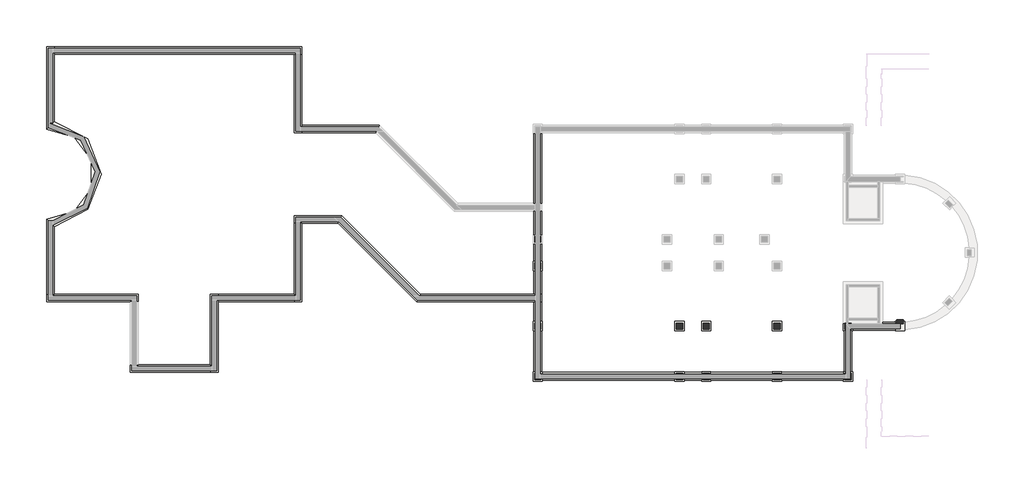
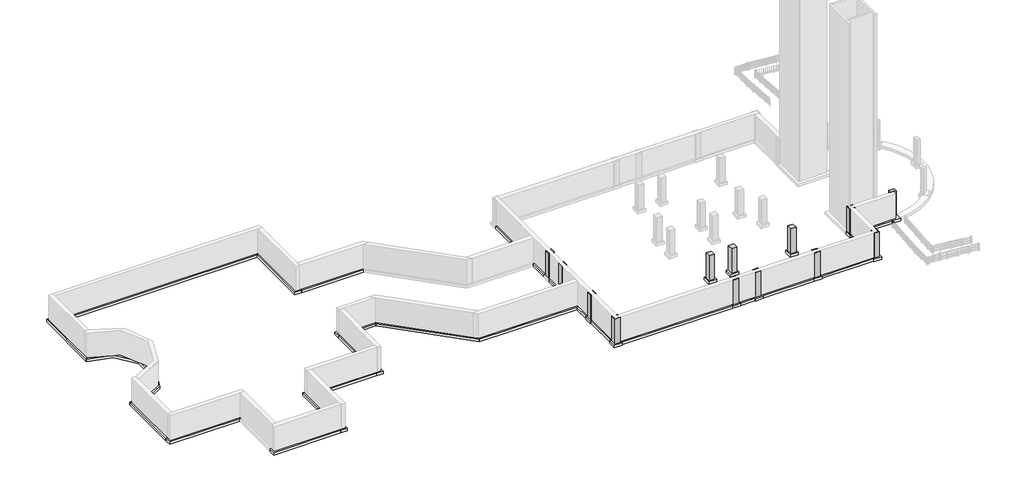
# One storey, part 2 of 3: 18 footings, 13 columns, 12 slabs.
"""IFC4 building model written with IfcOpenShell, lengths in millimetres."""

from ifc_helpers import new_model, si_unit, point, frame, frame_2d, origin, place, context, project, spatial, polyline, circle_curve, trimmed, segment, composite_curve, outline, extrude, faceted_brep, transform, mapped, element, save
from components import concrete_square_column_24_x_24_7ceb939f, slab_e1b4b68c

model = new_model("IFC4")

# Units and contexts
model_context = context("Model", 3, world=origin())
ifc_project = project(units=[si_unit("LENGTHUNIT", "METRE", prefix="MILLI")], contexts=[model_context])

# Site, building, storey
site = spatial("IfcSite", under=ifc_project)
building = spatial("IfcBuilding", under=site)
storey = spatial("IfcBuildingStorey", under=building, Name="T.O. Footing", Elevation=-3048.0)

# Columns
placement = place(None, origin())
element("IfcColumn", 1, ObjectType="Concrete-Square-Column : 24 x 24", at=placement, inside=storey, context=model_context, shape_type="SweptSolid", body=[
    extrude(outline(composite_curve([segment(polyline([(14794.462245, -1076.4762891), (15404.062245, -1076.4762891), (15404.062245, -1474.5635317)]), True, "CONTINUOUS"), segment(trimmed(circle_curve(frame_2d((15099.262245, 5429.0987109)), 6910.3875), [point((15404.062245, -1474.5635317))], [point((15099.262245, -1481.2887891))], False, "CARTESIAN"), True, "CONTINUOUS"), segment(polyline([(15099.262245, -1481.2887891), (14794.462245, -1481.2887891), (14794.462245, -1076.4762891)]), True, "CONTINUOUS")], self_intersect=False)), frame((0.0, 0.0, -3048.0), z_axis=(0.0, 0.0, 1.0), x_axis=(1.0, 0.0, 0.0)), (0.0, 0.0, 1.0), 3048.0),
])
element("IfcColumn", 2, ObjectType="Concrete-Square-Column : 24 x 24", at=placement, inside=storey, context=model_context, shape_type="SweptSolid", body=[
    extrude(outline(polyline([(10351.049745, -1938.4887891), (10351.049745, -2014.6887891), (10274.849745, -2014.6887891), (10274.849745, -1938.4887891), (10351.049745, -1938.4887891)])), frame((0.0, 0.0, -3048.0), z_axis=(0.0, 0.0, 1.0), x_axis=(1.0, 0.0, 0.0)), (0.0, 0.0, 1.0), 3048.0),
    extrude(outline(polyline([(9741.449745, -1405.0887891), (10351.049745, -1405.0887891), (10351.049745, -1481.2887891), (9817.649745, -1481.2887891), (9817.649745, -2014.6887891), (9741.449745, -2014.6887891), (9741.449745, -1405.0887891)])), frame((0.0, 0.0, -3048.0), z_axis=(0.0, 0.0, 1.0), x_axis=(1.0, 0.0, 0.0)), (0.0, 0.0, 1.0), 3048.0),
])
element("IfcColumn", 3, ObjectType="Concrete-Square-Column : 24 x 24", at=placement, inside=storey, context=model_context, shape_type="Brep", body=[
    faceted_brep([(9741.449745, -6281.8887891, -3048.0), (9817.649745, -6281.8887891, -3048.0), (9817.649745, -6358.0887891, -3048.0), (9741.449745, -6358.0887891, -3048.0), (9817.649745, -6281.8887891, 0.0), (9741.449745, -6281.8887891, 0.0), (9741.449745, -6358.0887891, 0.0), (9817.649745, -6358.0887891, 0.0)], [[[0, 1, 2, 3]], [[4, 5, 6, 7]], [[1, 4, 7, 2]], [[0, 5, 4, 1]], [[3, 2, 7, 6]], [[5, 0, 3, 6]]]),
    faceted_brep([(10351.049745, -6281.8887891, 0.0), (10351.049745, -6281.8887891, -3048.0), (10274.849745, -6281.8887891, -3048.0), (10274.849745, -6281.8887891, 0.0), (10351.049745, -6891.4887891, -3048.0), (10351.049745, -6891.4887891, 0.0), (9741.449745, -6891.4887891, -3048.0), (9741.449745, -6891.4887891, 0.0), (9741.449745, -6815.2887891, 0.0), (9741.449745, -6815.2887891, -3048.0), (10274.849745, -6815.2887891, -3048.0), (10274.849745, -6815.2887891, 0.0), (9817.649745, -6815.2887891, -3048.0), (9817.649745, -6815.2887891, 0.0)], [[[0, 1, 2, 3]], [[4, 1, 0, 5]], [[6, 4, 5, 7]], [[6, 7, 8, 9]], [[10, 11, 3, 2]], [[11, 10, 12, 9, 8, 13]], [[1, 4, 6, 9, 12, 10, 2]], [[5, 0, 3, 11, 13, 8, 7]]]),
])
element("IfcColumn", 4, ObjectType="Concrete-Square-Column : 24 x 24", at=placement, inside=storey, context=model_context, shape_type="SweptSolid", body=[
    extrude(outline(polyline([(3467.649745, -6891.4887891), (2858.049745, -6891.4887891), (2858.049745, -6815.2887891), (3467.649745, -6815.2887891), (3467.649745, -6891.4887891)])), frame((0.0, 0.0, -3048.0), z_axis=(0.0, 0.0, 1.0), x_axis=(1.0, 0.0, 0.0)), (0.0, 0.0, 1.0), 3048.0),
    extrude(outline(polyline([(2858.049745, -6281.8887891), (3467.649745, -6281.8887891), (3467.649745, -6358.0887891), (2858.049745, -6358.0887891), (2858.049745, -6281.8887891)])), frame((0.0, 0.0, -3048.0), z_axis=(0.0, 0.0, 1.0), x_axis=(1.0, 0.0, 0.0)), (0.0, 0.0, 1.0), 3048.0),
])
element("IfcColumn", 5, ObjectType="Concrete-Square-Column : 24 x 24", at=placement, inside=storey, context=model_context, shape_type="SweptSolid", body=[
    extrude(outline(polyline([(-3415.750255, -6891.4887891), (-4025.350255, -6891.4887891), (-4025.350255, -6815.2887891), (-3415.750255, -6815.2887891), (-3415.750255, -6891.4887891)])), frame((0.0, 0.0, -3048.0), z_axis=(0.0, 0.0, 1.0), x_axis=(1.0, 0.0, 0.0)), (0.0, 0.0, 1.0), 3048.0),
    extrude(outline(polyline([(-4025.350255, -6281.8887891), (-3415.750255, -6281.8887891), (-3415.750255, -6358.0887891), (-4025.350255, -6358.0887891), (-4025.350255, -6281.8887891)])), frame((0.0, 0.0, -3048.0), z_axis=(0.0, 0.0, 1.0), x_axis=(1.0, 0.0, 0.0)), (0.0, 0.0, 1.0), 3048.0),
])
element("IfcColumn", 6, ObjectType="Concrete-Square-Column : 24 x 24", at=placement, inside=storey, context=model_context, shape_type="SweptSolid", body=[
    extrude(outline(polyline([(-6009.725255, -6891.4887891), (-6619.325255, -6891.4887891), (-6619.325255, -6815.2887891), (-6009.725255, -6815.2887891), (-6009.725255, -6891.4887891)])), frame((0.0, 0.0, -3048.0), z_axis=(0.0, 0.0, 1.0), x_axis=(1.0, 0.0, 0.0)), (0.0, 0.0, 1.0), 3048.0),
    extrude(outline(polyline([(-6619.325255, -6281.8887891), (-6009.725255, -6281.8887891), (-6009.725255, -6358.0887891), (-6619.325255, -6358.0887891), (-6619.325255, -6281.8887891)])), frame((0.0, 0.0, -3048.0), z_axis=(0.0, 0.0, 1.0), x_axis=(1.0, 0.0, 0.0)), (0.0, 0.0, 1.0), 3048.0),
])
element("IfcColumn", 7, ObjectType="Concrete-Square-Column : 24 x 24", at=placement, inside=storey, context=model_context, shape_type="Brep", body=[
    faceted_brep([(-19776.525255, -6891.4887891, -3048.0), (-20386.125255, -6891.4887891, -3048.0), (-20386.125255, -6281.8887891, -3048.0), (-20309.925255, -6281.8887891, -3048.0), (-20309.925255, -6815.2887891, -3048.0), (-19852.725255, -6815.2887891, -3048.0), (-19776.525255, -6815.2887891, -3048.0), (-19776.525255, -6891.4887891, 0.0), (-19776.525255, -6815.2887891, 0.0), (-20386.125255, -6891.4887891, 0.0), (-20386.125255, -6281.8887891, 0.0), (-20309.925255, -6815.2887891, 0.0), (-20309.925255, -6281.8887891, 0.0), (-19852.725255, -6815.2887891, 0.0)], [[[0, 1, 2, 3, 4, 5, 6]], [[7, 0, 6, 8]], [[1, 0, 7, 9]], [[2, 1, 9, 10]], [[11, 4, 3, 12]], [[4, 11, 13, 8, 6, 5]], [[2, 10, 12, 3]], [[9, 7, 8, 13, 11, 12, 10]]]),
    faceted_brep([(-19776.525255, -6281.8887891, 0.0), (-19776.525255, -6281.8887891, -3048.0), (-19852.725255, -6281.8887891, -3048.0), (-19852.725255, -6281.8887891, 0.0), (-19852.725255, -6358.0887891, 0.0), (-19776.525255, -6358.0887891, 0.0), (-19852.725255, -6358.0887891, -3048.0), (-19776.525255, -6358.0887891, -3048.0)], [[[0, 1, 2, 3]], [[0, 3, 4, 5]], [[3, 2, 6, 4]], [[6, 7, 5, 4]], [[2, 1, 7, 6]], [[1, 0, 5, 7]]]),
])
element("IfcColumn", 8, ObjectType="Concrete-Square-Column : 24 x 24", at=placement, inside=storey, context=model_context, shape_type="SweptSolid", body=[
    extrude(outline(polyline([(-20386.125255, -2014.6887891), (-20386.125255, -1405.0887891), (-20309.925255, -1405.0887891), (-20309.925255, -2014.6887891), (-20386.125255, -2014.6887891)])), frame((0.0, 0.0, -3048.0), z_axis=(0.0, 0.0, 1.0), x_axis=(1.0, 0.0, 0.0)), (0.0, 0.0, 1.0), 3048.0),
    extrude(outline(polyline([(-19776.525255, -1405.0887891), (-19776.525255, -2014.6887891), (-19852.725255, -2014.6887891), (-19852.725255, -1405.0887891), (-19776.525255, -1405.0887891)])), frame((0.0, 0.0, -3048.0), z_axis=(0.0, 0.0, 1.0), x_axis=(1.0, 0.0, 0.0)), (0.0, 0.0, 1.0), 3048.0),
])
element("IfcColumn", 9, ObjectType="Concrete-Square-Column : 24 x 24", at=placement, inside=storey, context=model_context, shape_type="SweptSolid", body=[
    extrude(outline(polyline([(-20386.125255, 3827.3112109), (-20386.125255, 4436.9112109), (-20309.925255, 4436.9112109), (-20309.925255, 3827.3112109), (-20386.125255, 3827.3112109)])), frame((0.0, 0.0, -3048.0), z_axis=(0.0, 0.0, 1.0), x_axis=(1.0, 0.0, 0.0)), (0.0, 0.0, 1.0), 3048.0),
    extrude(outline(polyline([(-19776.525255, 4436.9112109), (-19776.525255, 3827.3112109), (-19852.725255, 3827.3112109), (-19852.725255, 4436.9112109), (-19776.525255, 4436.9112109)])), frame((0.0, 0.0, -3048.0), z_axis=(0.0, 0.0, 1.0), x_axis=(1.0, 0.0, 0.0)), (0.0, 0.0, 1.0), 3048.0),
])
element("IfcColumn", 10, ObjectType="Concrete-Square-Column : 24 x 24", at=placement, inside=storey, context=model_context, shape_type="SweptSolid", body=[
    extrude(outline(polyline([(-20386.125255, 6421.2862109), (-20386.125255, 7030.8862109), (-20309.925255, 7030.8862109), (-20309.925255, 6421.2862109), (-20386.125255, 6421.2862109)])), frame((0.0, 0.0, -3048.0), z_axis=(0.0, 0.0, 1.0), x_axis=(1.0, 0.0, 0.0)), (0.0, 0.0, 1.0), 3048.0),
    extrude(outline(polyline([(-19776.525255, 7030.8862109), (-19776.525255, 6421.2862109), (-19852.725255, 6421.2862109), (-19852.725255, 7030.8862109), (-19776.525255, 7030.8862109)])), frame((0.0, 0.0, -3048.0), z_axis=(0.0, 0.0, 1.0), x_axis=(1.0, 0.0, 0.0)), (0.0, 0.0, 1.0), 3048.0),
])
concrete_square_column_24_x_24_shape = concrete_square_column_24_x_24_7ceb939f(model_context)
element("IfcColumn", 11, ObjectType="Concrete-Square-Column : 24 x 24", at=placement, inside=storey, context=model_context, shape_type="MappedRepresentation", body=[
    mapped(concrete_square_column_24_x_24_shape, transform((-6314.525255, -1709.8887891, 0.0), x_axis=(1.0, 0.0, 0.0), y_axis=(0.0, 1.0, 0.0), z_axis=(0.0, 0.0, 1.0))),
])
element("IfcColumn", 12, ObjectType="Concrete-Square-Column : 24 x 24", at=placement, inside=storey, context=model_context, shape_type="MappedRepresentation", body=[
    mapped(concrete_square_column_24_x_24_shape, transform((-3720.550255, -1709.8887891, 0.0), x_axis=(1.0, 0.0, 0.0), y_axis=(0.0, 1.0, 0.0), z_axis=(0.0, 0.0, 1.0))),
])
element("IfcColumn", 13, ObjectType="Concrete-Square-Column : 24 x 24", at=placement, inside=storey, context=model_context, shape_type="MappedRepresentation", body=[
    mapped(concrete_square_column_24_x_24_shape, transform((3162.849745, -1709.8887891, 0.0), x_axis=(1.0, 0.0, 0.0), y_axis=(0.0, 1.0, 0.0), z_axis=(0.0, 0.0, 1.0))),
])

# Footings
element("IfcFooting", 14, ObjectType="Bearing Footing - 30\" x 12\"", at=placement, inside=storey, context=model_context, shape_type="Brep", body=[
    faceted_brep([(-19700.325255, 1414.3112109, -3048.0), (-20462.325255, 1414.3112109, -3048.0), (-31507.2912021, 1414.3112109, -3048.0), (-31822.9219366, 652.3112109, -3048.0), (-20462.325255, 652.3112109, -3048.0), (-19700.325255, 652.3112109, -3048.0), (-19700.325255, 652.3112109, -3352.8), (-31822.9219366, 652.3112109, -3352.8), (-20462.325255, 652.3112109, -3352.8), (-19700.325255, 1414.3112109, -3352.8), (-31507.2912021, 1414.3112109, -3352.8), (-20462.325255, 1414.3112109, -3352.8)], [[[0, 1, 2, 3, 4, 5]], [[6, 5, 4, 3, 7, 8]], [[9, 6, 8, 7, 10, 11]], [[0, 9, 11, 10, 2, 1]], [[3, 2, 10, 7]], [[0, 5, 6, 9]]]),
])
element("IfcFooting", 15, ObjectType="Bearing Footing - 30\" x 12\"", at=placement, inside=storey, context=model_context, shape_type="SweptSolid", body=[
    extrude(outline(polyline([(-31822.9219366, 652.3112109), (-39442.9219366, 8272.3112109), (-39127.2912021, 9034.3112109), (-31507.2912021, 1414.3112109), (-31822.9219366, 652.3112109)])), frame((0.0, 0.0, -3352.8), z_axis=(0.0, 0.0, 1.0), x_axis=(1.0, 0.0, 0.0)), (0.0, 0.0, 1.0), 304.8),
])
element("IfcFooting", 16, ObjectType="Bearing Footing - 30\" x 12\"", at=placement, inside=storey, context=model_context, shape_type="Brep", body=[
    faceted_brep([(-39127.2912021, 9034.3112109, -3048.0), (-43747.7398623, 9034.3112109, -3048.0), (-43747.7398623, 8272.3112109, -3048.0), (-42985.7398623, 8272.3112109, -3048.0), (-39442.9219366, 8272.3112109, -3048.0), (-43747.7398623, 8272.3112109, -3352.8), (-42985.7398623, 8272.3112109, -3352.8), (-39442.9219366, 8272.3112109, -3352.8), (-43747.7398623, 9034.3112109, -3352.8), (-39127.2912021, 9034.3112109, -3352.8)], [[[0, 1, 2, 3, 4]], [[2, 5, 6, 7, 4, 3]], [[8, 9, 7, 6, 5]], [[9, 8, 1, 0]], [[2, 1, 8, 5]], [[0, 4, 7, 9]]]),
])
element("IfcFooting", 17, ObjectType="Bearing Footing - 30\" x 12\"", at=placement, inside=storey, context=model_context, shape_type="Brep", body=[
    faceted_brep([(-43747.7398623, 652.3112109, -3048.0), (-42985.7398623, 652.3112109, -3048.0), (-42985.7398623, 8272.3112109, -3048.0), (-43747.7398623, 8272.3112109, -3048.0), (-43747.7398623, 1414.3112109, -3048.0), (-43747.7398623, 652.3112109, -3352.8), (-43747.7398623, 8272.3112109, -3352.8), (-43747.7398623, 1414.3112109, -3352.8), (-42985.7398623, 652.3112109, -3352.8), (-42985.7398623, 8272.3112109, -3352.8)], [[[0, 1, 2, 3, 4]], [[5, 0, 4, 3, 6, 7]], [[8, 5, 7, 6, 9]], [[1, 8, 9, 2]], [[1, 0, 5, 8]], [[3, 2, 9, 6]]]),
])
element("IfcFooting", 18, ObjectType="Bearing Footing - 30\" x 12\"", at=placement, inside=storey, context=model_context, shape_type="Brep", body=[
    faceted_brep([(-67779.3148623, 652.3112109, -3048.0), (-59651.3148623, 652.3112109, -3048.0), (-58889.3148623, 652.3112109, -3048.0), (-58889.3148623, 1414.3112109, -3048.0), (-67017.3148623, 1414.3112109, -3048.0), (-67779.3148623, 1414.3112109, -3048.0), (-67779.3148623, 1414.3112109, -3352.8), (-58889.3148623, 1414.3112109, -3352.8), (-67017.3148623, 1414.3112109, -3352.8), (-67779.3148623, 652.3112109, -3352.8), (-58889.3148623, 652.3112109, -3352.8), (-59651.3148623, 652.3112109, -3352.8)], [[[0, 1, 2, 3, 4, 5]], [[6, 5, 4, 3, 7, 8]], [[9, 6, 8, 7, 10, 11]], [[0, 9, 11, 10, 2, 1]], [[3, 2, 10, 7]], [[0, 5, 6, 9]]]),
])
element("IfcFooting", 19, ObjectType="Bearing Footing - 30\" x 12\"", at=placement, inside=storey, context=model_context, shape_type="Brep", body=[
    faceted_brep([(-51875.7398623, 1414.3112109, -3048.0), (-51875.7398623, -5443.6887891, -3048.0), (-51875.7398623, -6205.6887891, -3048.0), (-51113.7398623, -6205.6887891, -3048.0), (-51113.7398623, 652.3112109, -3048.0), (-51113.7398623, 1414.3112109, -3048.0), (-51113.7398623, 1414.3112109, -3352.8), (-51113.7398623, -6205.6887891, -3352.8), (-51113.7398623, 652.3112109, -3352.8), (-51875.7398623, 1414.3112109, -3352.8), (-51875.7398623, -6205.6887891, -3352.8), (-51875.7398623, -5443.6887891, -3352.8)], [[[0, 1, 2, 3, 4, 5]], [[6, 5, 4, 3, 7, 8]], [[9, 6, 8, 7, 10, 11]], [[0, 9, 11, 10, 2, 1]], [[3, 2, 10, 7]], [[0, 5, 6, 9]]]),
])
element("IfcFooting", 20, ObjectType="Bearing Footing - 30\" x 12\"", at=placement, inside=storey, context=model_context, shape_type="Brep", body=[
    faceted_brep([(-59651.3148623, -5443.6887891, -3048.0), (-59651.3148623, -6205.6887891, -3048.0), (-51875.7398623, -6205.6887891, -3048.0), (-51875.7398623, -5443.6887891, -3048.0), (-58889.3148623, -5443.6887891, -3048.0), (-59651.3148623, -5443.6887891, -3352.8), (-51875.7398623, -5443.6887891, -3352.8), (-58889.3148623, -5443.6887891, -3352.8), (-59651.3148623, -6205.6887891, -3352.8), (-51875.7398623, -6205.6887891, -3352.8)], [[[0, 1, 2, 3, 4]], [[5, 0, 4, 3, 6, 7]], [[8, 5, 7, 6, 9]], [[1, 8, 9, 2]], [[1, 0, 5, 8]], [[3, 2, 9, 6]]]),
])
element("IfcFooting", 21, ObjectType="Bearing Footing - 30\" x 12\"", at=placement, inside=storey, context=model_context, shape_type="SweptSolid", body=[
    extrude(outline(polyline([(-67779.3148623, 8686.690305), (-67017.3148623, 7950.2424568), (-67017.3148623, 1414.3112109), (-67779.3148623, 1414.3112109), (-67779.3148623, 8686.690305)])), frame((0.0, 0.0, -3352.8), z_axis=(0.0, 0.0, 1.0), x_axis=(1.0, 0.0, 0.0)), (0.0, 0.0, 1.0), 304.8),
])
element("IfcFooting", 22, ObjectType="Bearing Footing - 30\" x 12\"", at=placement, inside=storey, context=model_context, shape_type="SweptSolid", body=[
    extrude(outline(composite_curve([segment(trimmed(circle_curve(frame_2d((-67574.5273623, 13049.0987109)), 5129.2125), [point((-67017.3148623, 18147.954965))], [point((-67017.3148623, 7950.2424568))], False, "CARTESIAN"), True, "CONTINUOUS"), segment(polyline([(-67017.3148623, 7950.2424568), (-67779.3148623, 8686.690305)]), True, "CONTINUOUS"), segment(trimmed(circle_curve(frame_2d((-67574.5273623, 13049.0987109)), 4367.2125), [point((-67779.3148623, 8686.690305))], [point((-67779.3148623, 17411.5071168))], True, "CARTESIAN"), True, "CONTINUOUS"), segment(polyline([(-67779.3148623, 17411.5071168), (-67017.3148623, 18147.954965)]), True, "CONTINUOUS")], self_intersect=False)), frame((0.0, 0.0, -3352.8), z_axis=(0.0, 0.0, 1.0), x_axis=(1.0, 0.0, 0.0)), (0.0, 0.0, 1.0), 304.8),
])
element("IfcFooting", 23, ObjectType="Bearing Footing - 30\" x 12\"", at=placement, inside=storey, context=model_context, shape_type="Brep", body=[
    faceted_brep([(-67017.3148623, 18147.954965, -3048.0), (-67017.3148623, 24683.8862109, -3048.0), (-67017.3148623, 25445.8862109, -3048.0), (-67779.3148623, 25445.8862109, -3048.0), (-67779.3148623, 17411.5071168, -3048.0), (-67017.3148623, 18147.954965, -3352.8), (-67017.3148623, 24683.8862109, -3352.8), (-67017.3148623, 25445.8862109, -3352.8), (-67779.3148623, 17411.5071168, -3352.8), (-67779.3148623, 25445.8862109, -3352.8)], [[[0, 1, 2, 3, 4]], [[2, 1, 0, 5, 6, 7]], [[7, 6, 5, 8, 9]], [[9, 8, 4, 3]], [[0, 4, 8, 5]], [[3, 2, 7, 9]]]),
])
element("IfcFooting", 24, ObjectType="Bearing Footing - 30\" x 12\"", at=placement, inside=storey, context=model_context, shape_type="Brep", body=[
    faceted_brep([(-42985.7398623, 24683.8862109, -3048.0), (-42985.7398623, 25445.8862109, -3048.0), (-67017.3148623, 25445.8862109, -3048.0), (-67017.3148623, 24683.8862109, -3048.0), (-43747.7398623, 24683.8862109, -3048.0), (-42985.7398623, 24683.8862109, -3352.8), (-67017.3148623, 24683.8862109, -3352.8), (-43747.7398623, 24683.8862109, -3352.8), (-42985.7398623, 25445.8862109, -3352.8), (-67017.3148623, 25445.8862109, -3352.8)], [[[0, 1, 2, 3, 4]], [[5, 0, 4, 3, 6, 7]], [[8, 5, 7, 6, 9]], [[1, 8, 9, 2]], [[1, 0, 5, 8]], [[3, 2, 9, 6]]]),
])
element("IfcFooting", 25, ObjectType="Bearing Footing - 30\" x 12\"", at=placement, inside=storey, context=model_context, shape_type="Brep", body=[
    faceted_brep([(-43747.7398623, 17063.8862109, -3048.0), (-42985.7398623, 17063.8862109, -3048.0), (-42985.7398623, 17825.8862109, -3048.0), (-42985.7398623, 24683.8862109, -3048.0), (-43747.7398623, 24683.8862109, -3048.0), (-43747.7398623, 17063.8862109, -3352.8), (-43747.7398623, 24683.8862109, -3352.8), (-42985.7398623, 17063.8862109, -3352.8), (-42985.7398623, 24683.8862109, -3352.8), (-42985.7398623, 17825.8862109, -3352.8)], [[[0, 1, 2, 3, 4]], [[5, 0, 4, 6]], [[7, 5, 6, 8, 9]], [[1, 7, 9, 8, 3, 2]], [[1, 0, 5, 7]], [[4, 3, 8, 6]]]),
])
element("IfcFooting", 26, ObjectType="Bearing Footing - 30\" x 12\"", at=placement, inside=storey, context=model_context, shape_type="SweptSolid", body=[
    extrude(outline(polyline([(-35485.7016024, 17825.8862109), (-35801.332337, 17063.8862109), (-42985.7398623, 17063.8862109), (-42985.7398623, 17825.8862109), (-35485.7016024, 17825.8862109)])), frame((0.0, 0.0, -3352.8), z_axis=(0.0, 0.0, 1.0), x_axis=(1.0, 0.0, 0.0)), (0.0, 0.0, 1.0), 304.8),
])
element("IfcFooting", 27, ObjectType="Bearing Footing - 30\" x 12\"", at=placement, inside=storey, context=model_context, shape_type="SweptSolid", body=[
    extrude(outline(polyline([(-43747.7398623, 1414.3112109), (-43747.7398623, 652.3112109), (-51113.7398623, 652.3112109), (-51113.7398623, 1414.3112109), (-43747.7398623, 1414.3112109)])), frame((0.0, 0.0, -3352.8), z_axis=(0.0, 0.0, 1.0), x_axis=(1.0, 0.0, 0.0)), (0.0, 0.0, 1.0), 304.8),
])
element("IfcFooting", 28, ObjectType="Bearing Footing - 30\" x 12\"", at=placement, inside=storey, context=model_context, shape_type="SweptSolid", body=[
    extrude(outline(polyline([(-20462.325255, 652.3112109), (-19700.325255, 652.3112109), (-19700.325255, -1252.6887891), (-20462.325255, -1252.6887891), (-20462.325255, 652.3112109)])), frame((0.0, 0.0, -3352.8), z_axis=(0.0, 0.0, 1.0), x_axis=(1.0, 0.0, 0.0)), (0.0, 0.0, 1.0), 304.8),
    extrude(outline(polyline([(-19700.325255, 1414.3112109), (-20462.325255, 1414.3112109), (-20462.325255, 3674.9112109), (-19700.325255, 3674.9112109), (-19700.325255, 1414.3112109)])), frame((0.0, 0.0, -3352.8), z_axis=(0.0, 0.0, 1.0), x_axis=(1.0, 0.0, 0.0)), (0.0, 0.0, 1.0), 304.8),
    extrude(outline(polyline([(-19700.325255, 10205.8862109), (-20462.325255, 10205.8862109), (-20462.325255, 16987.6862109), (-19700.325255, 16987.6862109), (-19700.325255, 10205.8862109)])), frame((0.0, 0.0, -3352.8), z_axis=(0.0, 0.0, 1.0), x_axis=(1.0, 0.0, 0.0)), (0.0, 0.0, 1.0), 304.8),
    extrude(outline(polyline([(-20462.325255, 9443.8862109), (-19700.325255, 9443.8862109), (-19700.325255, 7183.2862109), (-20462.325255, 7183.2862109), (-20462.325255, 9443.8862109)])), frame((0.0, 0.0, -3352.8), z_axis=(0.0, 0.0, 1.0), x_axis=(1.0, 0.0, 0.0)), (0.0, 0.0, 1.0), 304.8),
    extrude(outline(polyline([(-20462.325255, 6268.8862109), (-19700.325255, 6268.8862109), (-19700.325255, 4589.3112109), (-20462.325255, 4589.3112109), (-20462.325255, 6268.8862109)])), frame((0.0, 0.0, -3352.8), z_axis=(0.0, 0.0, 1.0), x_axis=(1.0, 0.0, 0.0)), (0.0, 0.0, 1.0), 304.8),
    extrude(outline(polyline([(-20462.325255, -2167.0887891), (-19700.325255, -2167.0887891), (-19700.325255, -6129.4887891), (-20462.325255, -6129.4887891), (-20462.325255, -2167.0887891)])), frame((0.0, 0.0, -3352.8), z_axis=(0.0, 0.0, 1.0), x_axis=(1.0, 0.0, 0.0)), (0.0, 0.0, 1.0), 304.8),
])
element("IfcFooting", 29, ObjectType="Bearing Footing - 30\" x 12\"", at=placement, inside=storey, context=model_context, shape_type="SweptSolid", body=[
    extrude(outline(polyline([(13416.512245, -1481.2887891), (13416.512245, -1328.8887891), (14642.062245, -1328.8887891), (14642.062245, -2090.8887891), (10520.912245, -2090.8887891), (10520.912245, -1481.2887891), (13416.512245, -1481.2887891)])), frame((0.0, 0.0, -3352.8), z_axis=(0.0, 0.0, 1.0), x_axis=(1.0, 0.0, 0.0)), (0.0, 0.0, 1.0), 304.8),
])
element("IfcFooting", 30, ObjectType="Bearing Footing - 30\" x 12\"", at=placement, inside=storey, context=model_context, shape_type="SweptSolid", body=[
    extrude(outline(polyline([(10427.249745, -6129.4887891), (9665.249745, -6129.4887891), (9665.249745, -2167.0887891), (10427.249745, -2167.0887891), (10427.249745, -6129.4887891)])), frame((0.0, 0.0, -3352.8), z_axis=(0.0, 0.0, 1.0), x_axis=(1.0, 0.0, 0.0)), (0.0, 0.0, 1.0), 304.8),
])
element("IfcFooting", 31, ObjectType="Bearing Footing - 30\" x 12\"", at=placement, inside=storey, context=model_context, shape_type="SweptSolid", body=[
    extrude(outline(polyline([(-19624.125255, -6967.6887891), (-19624.125255, -6205.6887891), (-6771.725255, -6205.6887891), (-6771.725255, -6967.6887891), (-19624.125255, -6967.6887891)])), frame((0.0, 0.0, -3352.8), z_axis=(0.0, 0.0, 1.0), x_axis=(1.0, 0.0, 0.0)), (0.0, 0.0, 1.0), 304.8),
    extrude(outline(polyline([(-5857.325255, -6967.6887891), (-5857.325255, -6205.6887891), (-4177.750255, -6205.6887891), (-4177.750255, -6967.6887891), (-5857.325255, -6967.6887891)])), frame((0.0, 0.0, -3352.8), z_axis=(0.0, 0.0, 1.0), x_axis=(1.0, 0.0, 0.0)), (0.0, 0.0, 1.0), 304.8),
    extrude(outline(polyline([(-3263.350255, -6967.6887891), (-3263.350255, -6205.6887891), (2705.649745, -6205.6887891), (2705.649745, -6967.6887891), (-3263.350255, -6967.6887891)])), frame((0.0, 0.0, -3352.8), z_axis=(0.0, 0.0, 1.0), x_axis=(1.0, 0.0, 0.0)), (0.0, 0.0, 1.0), 304.8),
    extrude(outline(polyline([(3620.049745, -6967.6887891), (3620.049745, -6205.6887891), (9606.512245, -6205.6887891), (9606.512245, -6967.6887891), (3620.049745, -6967.6887891)])), frame((0.0, 0.0, -3352.8), z_axis=(0.0, 0.0, 1.0), x_axis=(1.0, 0.0, 0.0)), (0.0, 0.0, 1.0), 304.8),
])

# Slabs
element("IfcSlab", 32, ObjectType="Footing-Rectangular : 36\" x 36 x 12\"", at=placement, inside=storey, context=model_context, shape_type="Brep", body=[
    faceted_brep([(-19624.125255, 4589.3112109, -3048.0), (-19700.325255, 4589.3112109, -3048.0), (-20462.325255, 4589.3112109, -3048.0), (-20538.525255, 4589.3112109, -3048.0), (-20538.525255, 3674.9112109, -3048.0), (-20462.325255, 3674.9112109, -3048.0), (-19700.325255, 3674.9112109, -3048.0), (-19624.125255, 3674.9112109, -3048.0), (-19624.125255, 4589.3112109, -3352.8), (-19624.125255, 3674.9112109, -3352.8), (-19700.325255, 3674.9112109, -3352.8), (-20462.325255, 3674.9112109, -3352.8), (-20538.525255, 3674.9112109, -3352.8), (-20538.525255, 4589.3112109, -3352.8), (-20462.325255, 4589.3112109, -3352.8), (-19700.325255, 4589.3112109, -3352.8)], [[[0, 1, 2, 3, 4, 5, 6, 7]], [[8, 9, 10, 11, 12, 13, 14, 15]], [[3, 2, 1, 0, 8, 15, 14, 13]], [[4, 3, 13, 12]], [[7, 6, 5, 4, 12, 11, 10, 9]], [[0, 7, 9, 8]]]),
])
element("IfcSlab", 33, ObjectType="Footing-Rectangular : 36\" x 36 x 12\"", at=placement, inside=storey, context=model_context, shape_type="Brep", body=[
    faceted_brep([(-19624.125255, -1252.6887891, -3048.0), (-19700.325255, -1252.6887891, -3048.0), (-20462.325255, -1252.6887891, -3048.0), (-20538.525255, -1252.6887891, -3048.0), (-20538.525255, -2167.0887891, -3048.0), (-20462.325255, -2167.0887891, -3048.0), (-19700.325255, -2167.0887891, -3048.0), (-19624.125255, -2167.0887891, -3048.0), (-19624.125255, -1252.6887891, -3352.8), (-19624.125255, -2167.0887891, -3352.8), (-19700.325255, -2167.0887891, -3352.8), (-20462.325255, -2167.0887891, -3352.8), (-20538.525255, -2167.0887891, -3352.8), (-20538.525255, -1252.6887891, -3352.8), (-20462.325255, -1252.6887891, -3352.8), (-19700.325255, -1252.6887891, -3352.8)], [[[0, 1, 2, 3, 4, 5, 6, 7]], [[8, 9, 10, 11, 12, 13, 14, 15]], [[3, 2, 1, 0, 8, 15, 14, 13]], [[4, 3, 13, 12]], [[7, 6, 5, 4, 12, 11, 10, 9]], [[0, 7, 9, 8]]]),
])
element("IfcSlab", 34, ObjectType="Footing-Rectangular : 36\" x 36 x 12\"", at=placement, inside=storey, context=model_context, shape_type="Brep", body=[
    faceted_brep([(-19624.125255, -6129.4887891, -3048.0), (-19700.325255, -6129.4887891, -3048.0), (-20462.325255, -6129.4887891, -3048.0), (-20538.525255, -6129.4887891, -3048.0), (-20538.525255, -7043.8887891, -3048.0), (-19624.125255, -7043.8887891, -3048.0), (-19624.125255, -6967.6887891, -3048.0), (-19624.125255, -6205.6887891, -3048.0), (-19624.125255, -6129.4887891, -3352.8), (-19624.125255, -6205.6887891, -3352.8), (-19624.125255, -6967.6887891, -3352.8), (-19624.125255, -7043.8887891, -3352.8), (-20538.525255, -7043.8887891, -3352.8), (-20538.525255, -6129.4887891, -3352.8), (-20462.325255, -6129.4887891, -3352.8), (-19700.325255, -6129.4887891, -3352.8)], [[[0, 1, 2, 3, 4, 5, 6, 7]], [[8, 9, 10, 11, 12, 13, 14, 15]], [[3, 2, 1, 0, 8, 15, 14, 13]], [[4, 3, 13, 12]], [[5, 4, 12, 11]], [[0, 7, 6, 5, 11, 10, 9, 8]]]),
])
element("IfcSlab", 35, ObjectType="Footing-Rectangular : 36\" x 36 x 12\"", at=placement, inside=storey, context=model_context, shape_type="Brep", body=[
    faceted_brep([(-5857.325255, -6129.4887891, -3048.0), (-6771.725255, -6129.4887891, -3048.0), (-6771.725255, -6205.6887891, -3048.0), (-6771.725255, -6967.6887891, -3048.0), (-6771.725255, -7043.8887891, -3048.0), (-5857.325255, -7043.8887891, -3048.0), (-5857.325255, -6967.6887891, -3048.0), (-5857.325255, -6205.6887891, -3048.0), (-5857.325255, -6129.4887891, -3352.8), (-5857.325255, -6205.6887891, -3352.8), (-5857.325255, -6967.6887891, -3352.8), (-5857.325255, -7043.8887891, -3352.8), (-6771.725255, -7043.8887891, -3352.8), (-6771.725255, -6967.6887891, -3352.8), (-6771.725255, -6205.6887891, -3352.8), (-6771.725255, -6129.4887891, -3352.8)], [[[0, 1, 2, 3, 4, 5, 6, 7]], [[8, 9, 10, 11, 12, 13, 14, 15]], [[1, 0, 8, 15]], [[4, 3, 2, 1, 15, 14, 13, 12]], [[5, 4, 12, 11]], [[0, 7, 6, 5, 11, 10, 9, 8]]]),
])
element("IfcSlab", 36, ObjectType="Footing-Rectangular : 36\" x 36 x 12\"", at=placement, inside=storey, context=model_context, shape_type="Brep", body=[
    faceted_brep([(-3263.350255, -6129.4887891, -3048.0), (-4177.750255, -6129.4887891, -3048.0), (-4177.750255, -6205.6887891, -3048.0), (-4177.750255, -6967.6887891, -3048.0), (-4177.750255, -7043.8887891, -3048.0), (-3263.350255, -7043.8887891, -3048.0), (-3263.350255, -6967.6887891, -3048.0), (-3263.350255, -6205.6887891, -3048.0), (-3263.350255, -6129.4887891, -3352.8), (-3263.350255, -6205.6887891, -3352.8), (-3263.350255, -6967.6887891, -3352.8), (-3263.350255, -7043.8887891, -3352.8), (-4177.750255, -7043.8887891, -3352.8), (-4177.750255, -6967.6887891, -3352.8), (-4177.750255, -6205.6887891, -3352.8), (-4177.750255, -6129.4887891, -3352.8)], [[[0, 1, 2, 3, 4, 5, 6, 7]], [[8, 9, 10, 11, 12, 13, 14, 15]], [[1, 0, 8, 15]], [[4, 3, 2, 1, 15, 14, 13, 12]], [[5, 4, 12, 11]], [[0, 7, 6, 5, 11, 10, 9, 8]]]),
])
element("IfcSlab", 37, ObjectType="Footing-Rectangular : 36\" x 36 x 12\"", at=placement, inside=storey, context=model_context, shape_type="Brep", body=[
    faceted_brep([(3620.049745, -6129.4887891, -3048.0), (2705.649745, -6129.4887891, -3048.0), (2705.649745, -6205.6887891, -3048.0), (2705.649745, -6967.6887891, -3048.0), (2705.649745, -7043.8887891, -3048.0), (3620.049745, -7043.8887891, -3048.0), (3620.049745, -6967.6887891, -3048.0), (3620.049745, -6205.6887891, -3048.0), (3620.049745, -6129.4887891, -3352.8), (3620.049745, -6205.6887891, -3352.8), (3620.049745, -6967.6887891, -3352.8), (3620.049745, -7043.8887891, -3352.8), (2705.649745, -7043.8887891, -3352.8), (2705.649745, -6967.6887891, -3352.8), (2705.649745, -6205.6887891, -3352.8), (2705.649745, -6129.4887891, -3352.8)], [[[0, 1, 2, 3, 4, 5, 6, 7]], [[8, 9, 10, 11, 12, 13, 14, 15]], [[1, 0, 8, 15]], [[4, 3, 2, 1, 15, 14, 13, 12]], [[5, 4, 12, 11]], [[0, 7, 6, 5, 11, 10, 9, 8]]]),
])
element("IfcSlab", 38, ObjectType="Footing-Rectangular : 36\" x 36 x 12\"", at=placement, inside=storey, context=model_context, shape_type="Brep", body=[
    faceted_brep([(10520.912245, -6129.4887891, -3048.0), (10427.249745, -6129.4887891, -3048.0), (9665.249745, -6129.4887891, -3048.0), (9606.512245, -6129.4887891, -3048.0), (9606.512245, -6205.6887891, -3048.0), (9606.512245, -6967.6887891, -3048.0), (9606.512245, -7043.8887891, -3048.0), (10520.912245, -7043.8887891, -3048.0), (10520.912245, -6129.4887891, -3352.8), (10520.912245, -7043.8887891, -3352.8), (9606.512245, -7043.8887891, -3352.8), (9606.512245, -6967.6887891, -3352.8), (9606.512245, -6205.6887891, -3352.8), (9606.512245, -6129.4887891, -3352.8), (9665.249745, -6129.4887891, -3352.8), (10427.249745, -6129.4887891, -3352.8)], [[[0, 1, 2, 3, 4, 5, 6, 7]], [[8, 9, 10, 11, 12, 13, 14, 15]], [[3, 2, 1, 0, 8, 15, 14, 13]], [[6, 5, 4, 3, 13, 12, 11, 10]], [[7, 6, 10, 9]], [[0, 7, 9, 8]]]),
])
element("IfcSlab", 39, ObjectType="Footing-Rectangular : 36\" x 36 x 12\"", at=placement, inside=storey, context=model_context, shape_type="Brep", body=[
    faceted_brep([(9606.512245, -2167.0887891, -3048.0), (9665.249745, -2167.0887891, -3048.0), (10427.249745, -2167.0887891, -3048.0), (10520.912245, -2167.0887891, -3048.0), (10520.912245, -2090.8887891, -3048.0), (10520.912245, -1481.2887891, -3048.0), (9606.512245, -1481.2887891, -3048.0), (10520.912245, -2167.0887891, -3352.8), (10427.249745, -2167.0887891, -3352.8), (9665.249745, -2167.0887891, -3352.8), (9606.512245, -2167.0887891, -3352.8), (9606.512245, -1481.2887891, -3352.8), (10520.912245, -1481.2887891, -3352.8), (10520.912245, -2090.8887891, -3352.8)], [[[0, 1, 2, 3, 4, 5, 6]], [[7, 8, 9, 10, 11, 12, 13]], [[10, 0, 6, 11]], [[3, 2, 1, 0, 10, 9, 8, 7]], [[3, 7, 13, 12, 5, 4]], [[6, 5, 12, 11]]]),
])
element("IfcSlab", 40, ObjectType="Footing-Rectangular : 36\" x 36 x 12\"", at=placement, inside=storey, context=model_context, shape_type="Brep", body=[
    faceted_brep([(15556.462245, -1252.6887891, -3048.0), (14642.062245, -1252.6887891, -3048.0), (14642.062245, -1328.8887891, -3048.0), (14642.062245, -2090.8887891, -3048.0), (14642.062245, -2167.0887891, -3048.0), (15556.462245, -2167.0887891, -3048.0), (15556.462245, -2076.9775051, -3048.0), (15556.462245, -1313.4055131, -3048.0), (15556.462245, -1252.6887891, -3352.8), (15556.462245, -1313.4055131, -3352.8), (15556.462245, -2076.9775051, -3352.8), (15556.462245, -2167.0887891, -3352.8), (14642.062245, -2167.0887891, -3352.8), (14642.062245, -2090.8887891, -3352.8), (14642.062245, -1328.8887891, -3352.8), (14642.062245, -1252.6887891, -3352.8)], [[[0, 1, 2, 3, 4, 5, 6, 7]], [[8, 9, 10, 11, 12, 13, 14, 15]], [[1, 0, 8, 15]], [[4, 3, 2, 1, 15, 14, 13, 12]], [[5, 4, 12, 11]], [[0, 7, 6, 5, 11, 10, 9, 8]]]),
])
slab_shape = slab_e1b4b68c(model_context)
element("IfcSlab", 41, ObjectType="Footing-Rectangular : 36\" x 36 x 12\"", at=placement, inside=storey, context=model_context, shape_type="MappedRepresentation", body=[
    mapped(slab_shape, transform((-6314.525255, -1709.8887891, -3048.0), x_axis=(0.0, -1.0, 0.0), y_axis=(1.0, 0.0, 0.0), z_axis=(0.0, 0.0, 1.0))),
])
element("IfcSlab", 42, ObjectType="Footing-Rectangular : 36\" x 36 x 12\"", at=placement, inside=storey, context=model_context, shape_type="MappedRepresentation", body=[
    mapped(slab_shape, transform((-3720.550255, -1709.8887891, -3048.0), x_axis=(0.0, -1.0, 0.0), y_axis=(1.0, 0.0, 0.0), z_axis=(0.0, 0.0, 1.0))),
])
element("IfcSlab", 43, ObjectType="Footing-Rectangular : 36\" x 36 x 12\"", at=placement, inside=storey, context=model_context, shape_type="MappedRepresentation", body=[
    mapped(slab_shape, transform((3162.849745, -1709.8887891, -3048.0), x_axis=(0.0, -1.0, 0.0), y_axis=(1.0, 0.0, 0.0), z_axis=(0.0, 0.0, 1.0))),
])

save(model, "model.ifc")
